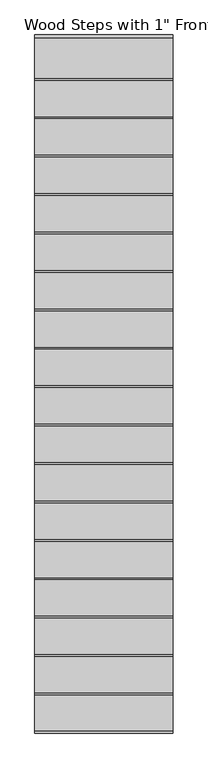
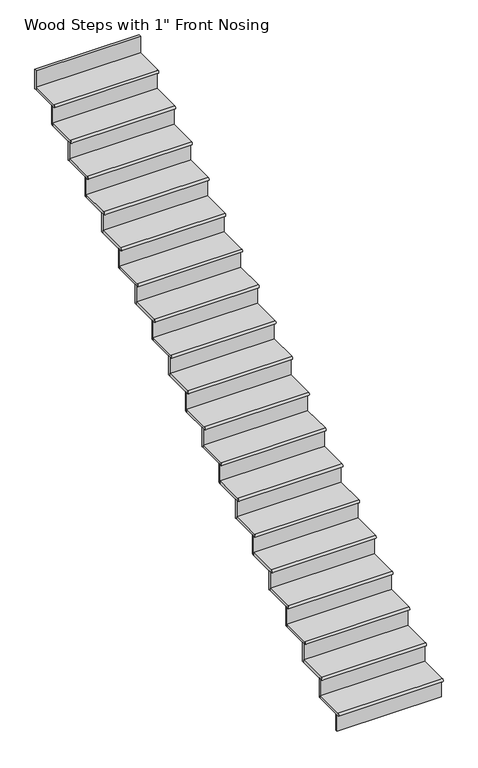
"""IFC4 building model written with IfcOpenShell, lengths in millimetres: stair flight geometry."""

from ifc_helpers import new_model, si_unit, point, frame, frame_2d, origin, place, context, project, spatial, polyline, circle_curve, trimmed, segment, composite_curve, outline, extrude, source, transform, mapped, element, save


def stair_flight_afca3383(model_context):
    return source(origin(), model_context, "Body", "SweptSolid", [
        extrude(outline(composite_curve([segment(polyline([(-5446.3539462, 806.1157895), (-5179.6539462, 806.1157895), (-5179.6539462, 780.7157895), (-5446.3539462, 780.7157895)]), True, "CONTINUOUS"), segment(trimmed(circle_curve(frame_2d((-5446.3539462, 793.4157895)), 12.7), [point((-5446.3539462, 780.7157895))], [point((-5446.3539462, 806.1157895))], False, "CARTESIAN"), True, "CONTINUOUS")], self_intersect=False)), frame((-3792.0629486, 0.0, 0.0), z_axis=(1.0, 0.0, 0.0), x_axis=(0.0, 1.0, 0.0)), (0.0, 0.0, 1.0), 914.4),
        extrude(outline(polyline([(-2877.6629486, -5414.6039462), (-2877.6629486, -5433.6539462), (-3792.0629486, -5433.6539462), (-3792.0629486, -5414.6039462), (-2877.6629486, -5414.6039462)])), frame((0.0, 0.0, 628.65), z_axis=(0.0, 0.0, 1.0), x_axis=(1.0, 0.0, 0.0)), (0.0, 0.0, 1.0), 152.0657895),
        extrude(outline(polyline([(-2877.6629486, -5160.6039462), (-2877.6629486, -5179.6539462), (-3792.0629486, -5179.6539462), (-3792.0629486, -5160.6039462), (-2877.6629486, -5160.6039462)])), frame((0.0, 0.0, 780.7157895), z_axis=(0.0, 0.0, 1.0), x_axis=(1.0, 0.0, 0.0)), (0.0, 0.0, 1.0), 177.4657895),
        extrude(outline(composite_curve([segment(polyline([(-5192.3539462, 983.5815789), (-4925.6539462, 983.5815789), (-4925.6539462, 958.1815789), (-5192.3539462, 958.1815789)]), True, "CONTINUOUS"), segment(trimmed(circle_curve(frame_2d((-5192.3539462, 970.8815789)), 12.7), [point((-5192.3539462, 958.1815789))], [point((-5192.3539462, 983.5815789))], False, "CARTESIAN"), True, "CONTINUOUS")], self_intersect=False)), frame((-3792.0629486, 0.0, 0.0), z_axis=(1.0, 0.0, 0.0), x_axis=(0.0, 1.0, 0.0)), (0.0, 0.0, 1.0), 914.4),
        extrude(outline(polyline([(-2877.6629486, -4906.6039462), (-2877.6629486, -4925.6539462), (-3792.0629486, -4925.6539462), (-3792.0629486, -4906.6039462), (-2877.6629486, -4906.6039462)])), frame((0.0, 0.0, 958.1815789), z_axis=(0.0, 0.0, 1.0), x_axis=(1.0, 0.0, 0.0)), (0.0, 0.0, 1.0), 177.4657895),
        extrude(outline(composite_curve([segment(polyline([(-4938.3539462, 1161.0473684), (-4671.6539462, 1161.0473684), (-4671.6539462, 1135.6473684), (-4938.3539462, 1135.6473684)]), True, "CONTINUOUS"), segment(trimmed(circle_curve(frame_2d((-4938.3539462, 1148.3473684)), 12.7), [point((-4938.3539462, 1135.6473684))], [point((-4938.3539462, 1161.0473684))], False, "CARTESIAN"), True, "CONTINUOUS")], self_intersect=False)), frame((-3792.0629486, 0.0, 0.0), z_axis=(1.0, 0.0, 0.0), x_axis=(0.0, 1.0, 0.0)), (0.0, 0.0, 1.0), 914.4),
        extrude(outline(polyline([(-2877.6629486, -4652.6039462), (-2877.6629486, -4671.6539462), (-3792.0629486, -4671.6539462), (-3792.0629486, -4652.6039462), (-2877.6629486, -4652.6039462)])), frame((0.0, 0.0, 1135.6473684), z_axis=(0.0, 0.0, 1.0), x_axis=(1.0, 0.0, 0.0)), (0.0, 0.0, 1.0), 177.4657895),
        extrude(outline(composite_curve([segment(polyline([(-4684.3539462, 1338.5131579), (-4417.6539462, 1338.5131579), (-4417.6539462, 1313.1131579), (-4684.3539462, 1313.1131579)]), True, "CONTINUOUS"), segment(trimmed(circle_curve(frame_2d((-4684.3539462, 1325.8131579)), 12.7), [point((-4684.3539462, 1313.1131579))], [point((-4684.3539462, 1338.5131579))], False, "CARTESIAN"), True, "CONTINUOUS")], self_intersect=False)), frame((-3792.0629486, 0.0, 0.0), z_axis=(1.0, 0.0, 0.0), x_axis=(0.0, 1.0, 0.0)), (0.0, 0.0, 1.0), 914.4),
        extrude(outline(polyline([(-2877.6629486, -4398.6039462), (-2877.6629486, -4417.6539462), (-3792.0629486, -4417.6539462), (-3792.0629486, -4398.6039462), (-2877.6629486, -4398.6039462)])), frame((0.0, 0.0, 1313.1131579), z_axis=(0.0, 0.0, 1.0), x_axis=(1.0, 0.0, 0.0)), (0.0, 0.0, 1.0), 177.4657895),
        extrude(outline(composite_curve([segment(polyline([(-4430.3539462, 1515.9789474), (-4163.6539462, 1515.9789474), (-4163.6539462, 1490.5789474), (-4430.3539462, 1490.5789474)]), True, "CONTINUOUS"), segment(trimmed(circle_curve(frame_2d((-4430.3539462, 1503.2789474)), 12.7), [point((-4430.3539462, 1490.5789474))], [point((-4430.3539462, 1515.9789474))], False, "CARTESIAN"), True, "CONTINUOUS")], self_intersect=False)), frame((-3792.0629486, 0.0, 0.0), z_axis=(1.0, 0.0, 0.0), x_axis=(0.0, 1.0, 0.0)), (0.0, 0.0, 1.0), 914.4),
        extrude(outline(polyline([(-2877.6629486, -4144.6039462), (-2877.6629486, -4163.6539462), (-3792.0629486, -4163.6539462), (-3792.0629486, -4144.6039462), (-2877.6629486, -4144.6039462)])), frame((0.0, 0.0, 1490.5789474), z_axis=(0.0, 0.0, 1.0), x_axis=(1.0, 0.0, 0.0)), (0.0, 0.0, 1.0), 177.4657895),
        extrude(outline(composite_curve([segment(polyline([(-4176.3539462, 1693.4447368), (-3909.6539462, 1693.4447368), (-3909.6539462, 1668.0447368), (-4176.3539462, 1668.0447368)]), True, "CONTINUOUS"), segment(trimmed(circle_curve(frame_2d((-4176.3539462, 1680.7447368)), 12.7), [point((-4176.3539462, 1668.0447368))], [point((-4176.3539462, 1693.4447368))], False, "CARTESIAN"), True, "CONTINUOUS")], self_intersect=False)), frame((-3792.0629486, 0.0, 0.0), z_axis=(1.0, 0.0, 0.0), x_axis=(0.0, 1.0, 0.0)), (0.0, 0.0, 1.0), 914.4),
        extrude(outline(polyline([(-2877.6629486, -3890.6039462), (-2877.6629486, -3909.6539462), (-3792.0629486, -3909.6539462), (-3792.0629486, -3890.6039462), (-2877.6629486, -3890.6039462)])), frame((0.0, 0.0, 1668.0447368), z_axis=(0.0, 0.0, 1.0), x_axis=(1.0, 0.0, 0.0)), (0.0, 0.0, 1.0), 177.4657895),
        extrude(outline(composite_curve([segment(polyline([(-3922.3539462, 1870.9105263), (-3655.6539462, 1870.9105263), (-3655.6539462, 1845.5105263), (-3922.3539462, 1845.5105263)]), True, "CONTINUOUS"), segment(trimmed(circle_curve(frame_2d((-3922.3539462, 1858.2105263)), 12.7), [point((-3922.3539462, 1845.5105263))], [point((-3922.3539462, 1870.9105263))], False, "CARTESIAN"), True, "CONTINUOUS")], self_intersect=False)), frame((-3792.0629486, 0.0, 0.0), z_axis=(1.0, 0.0, 0.0), x_axis=(0.0, 1.0, 0.0)), (0.0, 0.0, 1.0), 914.4),
        extrude(outline(polyline([(-2877.6629486, -3636.6039462), (-2877.6629486, -3655.6539462), (-3792.0629486, -3655.6539462), (-3792.0629486, -3636.6039462), (-2877.6629486, -3636.6039462)])), frame((0.0, 0.0, 1845.5105263), z_axis=(0.0, 0.0, 1.0), x_axis=(1.0, 0.0, 0.0)), (0.0, 0.0, 1.0), 177.4657895),
        extrude(outline(composite_curve([segment(polyline([(-3668.3539462, 2048.3763158), (-3401.6539462, 2048.3763158), (-3401.6539462, 2022.9763158), (-3668.3539462, 2022.9763158)]), True, "CONTINUOUS"), segment(trimmed(circle_curve(frame_2d((-3668.3539462, 2035.6763158)), 12.7), [point((-3668.3539462, 2022.9763158))], [point((-3668.3539462, 2048.3763158))], False, "CARTESIAN"), True, "CONTINUOUS")], self_intersect=False)), frame((-3792.0629486, 0.0, 0.0), z_axis=(1.0, 0.0, 0.0), x_axis=(0.0, 1.0, 0.0)), (0.0, 0.0, 1.0), 914.4),
        extrude(outline(polyline([(-2877.6629486, -3382.6039462), (-2877.6629486, -3401.6539462), (-3792.0629486, -3401.6539462), (-3792.0629486, -3382.6039462), (-2877.6629486, -3382.6039462)])), frame((0.0, 0.0, 2022.9763158), z_axis=(0.0, 0.0, 1.0), x_axis=(1.0, 0.0, 0.0)), (0.0, 0.0, 1.0), 177.4657895),
        extrude(outline(composite_curve([segment(polyline([(-3414.3539462, 2225.8421053), (-3147.6539462, 2225.8421053), (-3147.6539462, 2200.4421053), (-3414.3539462, 2200.4421053)]), True, "CONTINUOUS"), segment(trimmed(circle_curve(frame_2d((-3414.3539462, 2213.1421053)), 12.7), [point((-3414.3539462, 2200.4421053))], [point((-3414.3539462, 2225.8421053))], False, "CARTESIAN"), True, "CONTINUOUS")], self_intersect=False)), frame((-3792.0629486, 0.0, 0.0), z_axis=(1.0, 0.0, 0.0), x_axis=(0.0, 1.0, 0.0)), (0.0, 0.0, 1.0), 914.4),
        extrude(outline(polyline([(-2877.6629486, -3128.6039462), (-2877.6629486, -3147.6539462), (-3792.0629486, -3147.6539462), (-3792.0629486, -3128.6039462), (-2877.6629486, -3128.6039462)])), frame((0.0, 0.0, 2200.4421053), z_axis=(0.0, 0.0, 1.0), x_axis=(1.0, 0.0, 0.0)), (0.0, 0.0, 1.0), 177.4657895),
        extrude(outline(composite_curve([segment(polyline([(-3160.3539462, 2403.3078947), (-2893.6539462, 2403.3078947), (-2893.6539462, 2377.9078947), (-3160.3539462, 2377.9078947)]), True, "CONTINUOUS"), segment(trimmed(circle_curve(frame_2d((-3160.3539462, 2390.6078947)), 12.7), [point((-3160.3539462, 2377.9078947))], [point((-3160.3539462, 2403.3078947))], False, "CARTESIAN"), True, "CONTINUOUS")], self_intersect=False)), frame((-3792.0629486, 0.0, 0.0), z_axis=(1.0, 0.0, 0.0), x_axis=(0.0, 1.0, 0.0)), (0.0, 0.0, 1.0), 914.4),
        extrude(outline(polyline([(-2877.6629486, -2874.6039462), (-2877.6629486, -2893.6539462), (-3792.0629486, -2893.6539462), (-3792.0629486, -2874.6039462), (-2877.6629486, -2874.6039462)])), frame((0.0, 0.0, 2377.9078947), z_axis=(0.0, 0.0, 1.0), x_axis=(1.0, 0.0, 0.0)), (0.0, 0.0, 1.0), 177.4657895),
        extrude(outline(composite_curve([segment(polyline([(-2906.3539462, 2580.7736842), (-2639.6539462, 2580.7736842), (-2639.6539462, 2555.3736842), (-2906.3539462, 2555.3736842)]), True, "CONTINUOUS"), segment(trimmed(circle_curve(frame_2d((-2906.3539462, 2568.0736842)), 12.7), [point((-2906.3539462, 2555.3736842))], [point((-2906.3539462, 2580.7736842))], False, "CARTESIAN"), True, "CONTINUOUS")], self_intersect=False)), frame((-3792.0629486, 0.0, 0.0), z_axis=(1.0, 0.0, 0.0), x_axis=(0.0, 1.0, 0.0)), (0.0, 0.0, 1.0), 914.4),
        extrude(outline(polyline([(-2877.6629486, -2620.6039462), (-2877.6629486, -2639.6539462), (-3792.0629486, -2639.6539462), (-3792.0629486, -2620.6039462), (-2877.6629486, -2620.6039462)])), frame((0.0, 0.0, 2555.3736842), z_axis=(0.0, 0.0, 1.0), x_axis=(1.0, 0.0, 0.0)), (0.0, 0.0, 1.0), 177.4657895),
        extrude(outline(composite_curve([segment(polyline([(-2652.3539462, 2758.2394737), (-2385.6539462, 2758.2394737), (-2385.6539462, 2732.8394737), (-2652.3539462, 2732.8394737)]), True, "CONTINUOUS"), segment(trimmed(circle_curve(frame_2d((-2652.3539462, 2745.5394737)), 12.7), [point((-2652.3539462, 2732.8394737))], [point((-2652.3539462, 2758.2394737))], False, "CARTESIAN"), True, "CONTINUOUS")], self_intersect=False)), frame((-3792.0629486, 0.0, 0.0), z_axis=(1.0, 0.0, 0.0), x_axis=(0.0, 1.0, 0.0)), (0.0, 0.0, 1.0), 914.4),
        extrude(outline(polyline([(-2877.6629486, -2366.6039462), (-2877.6629486, -2385.6539462), (-3792.0629486, -2385.6539462), (-3792.0629486, -2366.6039462), (-2877.6629486, -2366.6039462)])), frame((0.0, 0.0, 2732.8394737), z_axis=(0.0, 0.0, 1.0), x_axis=(1.0, 0.0, 0.0)), (0.0, 0.0, 1.0), 177.4657895),
        extrude(outline(composite_curve([segment(polyline([(-2398.3539462, 2935.7052632), (-2131.6539462, 2935.7052632), (-2131.6539462, 2910.3052632), (-2398.3539462, 2910.3052632)]), True, "CONTINUOUS"), segment(trimmed(circle_curve(frame_2d((-2398.3539462, 2923.0052632)), 12.7), [point((-2398.3539462, 2910.3052632))], [point((-2398.3539462, 2935.7052632))], False, "CARTESIAN"), True, "CONTINUOUS")], self_intersect=False)), frame((-3792.0629486, 0.0, 0.0), z_axis=(1.0, 0.0, 0.0), x_axis=(0.0, 1.0, 0.0)), (0.0, 0.0, 1.0), 914.4),
        extrude(outline(polyline([(-2877.6629486, -2112.6039462), (-2877.6629486, -2131.6539462), (-3792.0629486, -2131.6539462), (-3792.0629486, -2112.6039462), (-2877.6629486, -2112.6039462)])), frame((0.0, 0.0, 2910.3052632), z_axis=(0.0, 0.0, 1.0), x_axis=(1.0, 0.0, 0.0)), (0.0, 0.0, 1.0), 177.4657895),
        extrude(outline(composite_curve([segment(polyline([(-2144.3539462, 3113.1710526), (-1877.6539462, 3113.1710526), (-1877.6539462, 3087.7710526), (-2144.3539462, 3087.7710526)]), True, "CONTINUOUS"), segment(trimmed(circle_curve(frame_2d((-2144.3539462, 3100.4710526)), 12.7), [point((-2144.3539462, 3087.7710526))], [point((-2144.3539462, 3113.1710526))], False, "CARTESIAN"), True, "CONTINUOUS")], self_intersect=False)), frame((-3792.0629486, 0.0, 0.0), z_axis=(1.0, 0.0, 0.0), x_axis=(0.0, 1.0, 0.0)), (0.0, 0.0, 1.0), 914.4),
        extrude(outline(polyline([(-2877.6629486, -1858.6039462), (-2877.6629486, -1877.6539462), (-3792.0629486, -1877.6539462), (-3792.0629486, -1858.6039462), (-2877.6629486, -1858.6039462)])), frame((0.0, 0.0, 3087.7710526), z_axis=(0.0, 0.0, 1.0), x_axis=(1.0, 0.0, 0.0)), (0.0, 0.0, 1.0), 177.4657895),
        extrude(outline(composite_curve([segment(polyline([(-1890.3539462, 3290.6368421), (-1623.6539462, 3290.6368421), (-1623.6539462, 3265.2368421), (-1890.3539462, 3265.2368421)]), True, "CONTINUOUS"), segment(trimmed(circle_curve(frame_2d((-1890.3539462, 3277.9368421)), 12.7), [point((-1890.3539462, 3265.2368421))], [point((-1890.3539462, 3290.6368421))], False, "CARTESIAN"), True, "CONTINUOUS")], self_intersect=False)), frame((-3792.0629486, 0.0, 0.0), z_axis=(1.0, 0.0, 0.0), x_axis=(0.0, 1.0, 0.0)), (0.0, 0.0, 1.0), 914.4),
        extrude(outline(polyline([(-2877.6629486, -1604.6039462), (-2877.6629486, -1623.6539462), (-3792.0629486, -1623.6539462), (-3792.0629486, -1604.6039462), (-2877.6629486, -1604.6039462)])), frame((0.0, 0.0, 3265.2368421), z_axis=(0.0, 0.0, 1.0), x_axis=(1.0, 0.0, 0.0)), (0.0, 0.0, 1.0), 177.4657895),
        extrude(outline(composite_curve([segment(polyline([(-1636.3539462, 3468.1026316), (-1369.6539462, 3468.1026316), (-1369.6539462, 3442.7026316), (-1636.3539462, 3442.7026316)]), True, "CONTINUOUS"), segment(trimmed(circle_curve(frame_2d((-1636.3539462, 3455.4026316)), 12.7), [point((-1636.3539462, 3442.7026316))], [point((-1636.3539462, 3468.1026316))], False, "CARTESIAN"), True, "CONTINUOUS")], self_intersect=False)), frame((-3792.0629486, 0.0, 0.0), z_axis=(1.0, 0.0, 0.0), x_axis=(0.0, 1.0, 0.0)), (0.0, 0.0, 1.0), 914.4),
        extrude(outline(polyline([(-2877.6629486, -1350.6039462), (-2877.6629486, -1369.6539462), (-3792.0629486, -1369.6539462), (-3792.0629486, -1350.6039462), (-2877.6629486, -1350.6039462)])), frame((0.0, 0.0, 3442.7026316), z_axis=(0.0, 0.0, 1.0), x_axis=(1.0, 0.0, 0.0)), (0.0, 0.0, 1.0), 177.4657895),
        extrude(outline(composite_curve([segment(polyline([(-1382.3539462, 3645.5684211), (-1115.6539462, 3645.5684211), (-1115.6539462, 3620.1684211), (-1382.3539462, 3620.1684211)]), True, "CONTINUOUS"), segment(trimmed(circle_curve(frame_2d((-1382.3539462, 3632.8684211)), 12.7), [point((-1382.3539462, 3620.1684211))], [point((-1382.3539462, 3645.5684211))], False, "CARTESIAN"), True, "CONTINUOUS")], self_intersect=False)), frame((-3792.0629486, 0.0, 0.0), z_axis=(1.0, 0.0, 0.0), x_axis=(0.0, 1.0, 0.0)), (0.0, 0.0, 1.0), 914.4),
        extrude(outline(polyline([(-2877.6629486, -1096.6039462), (-2877.6629486, -1115.6539462), (-3792.0629486, -1115.6539462), (-3792.0629486, -1096.6039462), (-2877.6629486, -1096.6039462)])), frame((0.0, 0.0, 3620.1684211), z_axis=(0.0, 0.0, 1.0), x_axis=(1.0, 0.0, 0.0)), (0.0, 0.0, 1.0), 177.4657895),
        extrude(outline(polyline([(-2877.6629486, -842.6039462), (-2877.6629486, -861.6539462), (-3792.0629486, -861.6539462), (-3792.0629486, -842.6039462), (-2877.6629486, -842.6039462)])), frame((0.0, 0.0, 3797.6342105), z_axis=(0.0, 0.0, 1.0), x_axis=(1.0, 0.0, 0.0)), (0.0, 0.0, 1.0), 177.4657895),
        extrude(outline(composite_curve([segment(polyline([(-1128.3539462, 3823.0342105), (-861.6539462, 3823.0342105), (-861.6539462, 3797.6342105), (-1128.3539462, 3797.6342105)]), True, "CONTINUOUS"), segment(trimmed(circle_curve(frame_2d((-1128.3539462, 3810.3342105)), 12.7), [point((-1128.3539462, 3797.6342105))], [point((-1128.3539462, 3823.0342105))], False, "CARTESIAN"), True, "CONTINUOUS")], self_intersect=False)), frame((-3792.0629486, 0.0, 0.0), z_axis=(1.0, 0.0, 0.0), x_axis=(0.0, 1.0, 0.0)), (0.0, 0.0, 1.0), 914.4),
    ])


if __name__ == "__main__":
    model = new_model("IFC4")
    model_context = context("Model", 3, world=origin())
    ifc_project = project(units=[si_unit("LENGTHUNIT", "METRE", prefix="MILLI")], contexts=[model_context])
    site = spatial("IfcSite", under=ifc_project)
    building = spatial("IfcBuilding", under=site)
    placement = place(None, origin())
    stair_flight_shape = stair_flight_afca3383(model_context)
    element("IfcStairFlight", 1, ObjectType="Wood Steps with 1\" Front Nosing", at=placement, inside=building, context=model_context, shape_type="MappedRepresentation", body=[
        mapped(stair_flight_shape, transform((0.0, 0.0, 0.0), x_axis=(1.0, 0.0, 0.0), y_axis=(0.0, 1.0, 0.0), z_axis=(0.0, 0.0, 1.0))),
    ])
    save(model, "model.ifc")
